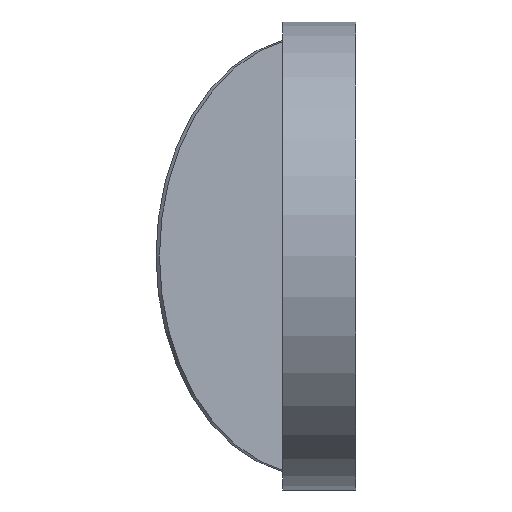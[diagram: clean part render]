
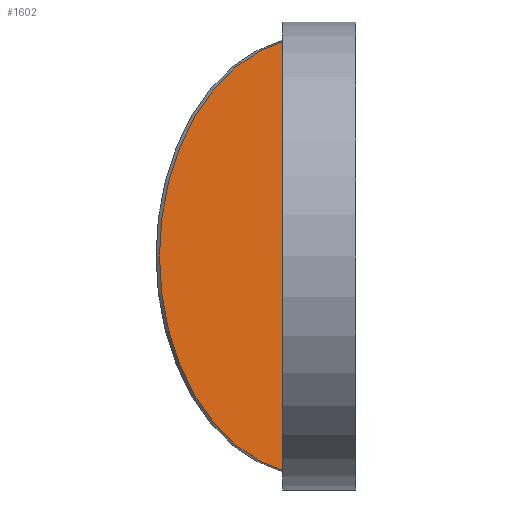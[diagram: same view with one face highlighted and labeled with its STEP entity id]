
A CAD part, left-side view. The second image highlights one B-rep face of the part: STEP entity #1602.
In plain terms, the highlighted planar face has unit normal (-0.707, -0.707, 0).
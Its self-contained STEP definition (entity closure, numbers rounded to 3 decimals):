
#59=ELLIPSE('',#1671,83.439,59.);
#64=ELLIPSE('',#1703,83.439,59.);
#99=CIRCLE('',#1720,60.);
#240=FACE_OUTER_BOUND('',#311,.T.);
#311=EDGE_LOOP('',(#1252,#1253,#1254,#1255,#1256,#1257,#1258,#1259,#1260,
#1261,#1262,#1263,#1264,#1265));
#450=LINE('',#2509,#630);
#451=LINE('',#2512,#631);
#454=LINE('',#2518,#634);
#455=LINE('',#2520,#635);
#456=LINE('',#2522,#636);
#457=LINE('',#2524,#637);
#458=LINE('',#2526,#638);
#459=LINE('',#2528,#639);
#460=LINE('',#2530,#640);
#461=LINE('',#2532,#641);
#462=LINE('',#2533,#642);
#630=VECTOR('',#2034,10.);
#631=VECTOR('',#2037,10.);
#634=VECTOR('',#2042,10.);
#635=VECTOR('',#2043,10.);
#636=VECTOR('',#2044,10.);
#637=VECTOR('',#2045,10.);
#638=VECTOR('',#2046,10.);
#639=VECTOR('',#2047,10.);
#640=VECTOR('',#2048,10.);
#641=VECTOR('',#2049,10.);
#642=VECTOR('',#2050,10.);
#776=VERTEX_POINT('',#2375);
#777=VERTEX_POINT('',#2377);
#799=VERTEX_POINT('',#2451);
#800=VERTEX_POINT('',#2456);
#817=VERTEX_POINT('',#2507);
#818=VERTEX_POINT('',#2511);
#820=VERTEX_POINT('',#2517);
#821=VERTEX_POINT('',#2519);
#822=VERTEX_POINT('',#2521);
#823=VERTEX_POINT('',#2523);
#824=VERTEX_POINT('',#2525);
#825=VERTEX_POINT('',#2527);
#826=VERTEX_POINT('',#2529);
#827=VERTEX_POINT('',#2531);
#934=EDGE_CURVE('',#776,#777,#59,.T.);
#969=EDGE_CURVE('',#799,#800,#64,.T.);
#993=EDGE_CURVE('',#777,#799,#99,.T.);
#996=EDGE_CURVE('',#817,#776,#450,.T.);
#997=EDGE_CURVE('',#800,#818,#451,.T.);
#1000=EDGE_CURVE('',#820,#817,#454,.T.);
#1001=EDGE_CURVE('',#821,#820,#455,.T.);
#1002=EDGE_CURVE('',#822,#821,#456,.T.);
#1003=EDGE_CURVE('',#823,#822,#457,.T.);
#1004=EDGE_CURVE('',#824,#823,#458,.T.);
#1005=EDGE_CURVE('',#825,#824,#459,.T.);
#1006=EDGE_CURVE('',#826,#825,#460,.T.);
#1007=EDGE_CURVE('',#827,#826,#461,.T.);
#1008=EDGE_CURVE('',#818,#827,#462,.T.);
#1252=ORIENTED_EDGE('',*,*,#969,.F.);
#1253=ORIENTED_EDGE('',*,*,#993,.F.);
#1254=ORIENTED_EDGE('',*,*,#934,.F.);
#1255=ORIENTED_EDGE('',*,*,#996,.F.);
#1256=ORIENTED_EDGE('',*,*,#1000,.F.);
#1257=ORIENTED_EDGE('',*,*,#1001,.F.);
#1258=ORIENTED_EDGE('',*,*,#1002,.F.);
#1259=ORIENTED_EDGE('',*,*,#1003,.F.);
#1260=ORIENTED_EDGE('',*,*,#1004,.F.);
#1261=ORIENTED_EDGE('',*,*,#1005,.F.);
#1262=ORIENTED_EDGE('',*,*,#1006,.F.);
#1263=ORIENTED_EDGE('',*,*,#1007,.F.);
#1264=ORIENTED_EDGE('',*,*,#1008,.F.);
#1265=ORIENTED_EDGE('',*,*,#997,.F.);
#1534=PLANE('',#1723);
#1602=ADVANCED_FACE('',(#240),#1534,.T.);
#1671=AXIS2_PLACEMENT_3D('',#2378,#1908,#1909);
#1703=AXIS2_PLACEMENT_3D('',#2457,#1980,#1981);
#1720=AXIS2_PLACEMENT_3D('',#2503,#2028,#2029);
#1723=AXIS2_PLACEMENT_3D('',#2516,#2040,#2041);
#1908=DIRECTION('center_axis',(0.707,0.707,0.));
#1909=DIRECTION('ref_axis',(-0.707,0.707,0.));
#1980=DIRECTION('center_axis',(0.707,0.707,0.));
#1981=DIRECTION('ref_axis',(-0.707,0.707,0.));
#2028=DIRECTION('center_axis',(0.707,0.707,0.));
#2029=DIRECTION('ref_axis',(-0.129,0.129,-0.983));
#2034=DIRECTION('',(0.,0.,-1.));
#2037=DIRECTION('',(0.,0.,-1.));
#2040=DIRECTION('center_axis',(-0.707,-0.707,0.));
#2041=DIRECTION('ref_axis',(0.,0.,1.));
#2042=DIRECTION('',(0.577,-0.577,0.577));
#2043=DIRECTION('',(0.,0.,-1.));
#2044=DIRECTION('',(-0.577,0.577,-0.577));
#2045=DIRECTION('',(0.707,-0.707,0.));
#2046=DIRECTION('',(0.,0.,-1.));
#2047=DIRECTION('',(-0.707,0.707,0.));
#2048=DIRECTION('',(0.577,-0.577,-0.577));
#2049=DIRECTION('',(0.,0.,-1.));
#2050=DIRECTION('',(-0.577,0.577,0.577));
#2375=CARTESIAN_POINT('',(-1.693,9.057,-58.976));
#2377=CARTESIAN_POINT('',(-1.776,9.141,-58.973));
#2378=CARTESIAN_POINT('Origin',(0.,7.364,0.));
#2451=CARTESIAN_POINT('',(-1.776,9.141,58.973));
#2456=CARTESIAN_POINT('',(-1.693,9.057,58.976));
#2457=CARTESIAN_POINT('Origin',(0.,7.364,0.));
#2503=CARTESIAN_POINT('Origin',(6.039,1.325,0.));
#2507=CARTESIAN_POINT('',(-1.693,9.057,-2.753));
#2509=CARTESIAN_POINT('',(-1.693,9.057,58.995));
#2511=CARTESIAN_POINT('',(-1.693,9.057,2.753));
#2512=CARTESIAN_POINT('',(-1.693,9.057,58.995));
#2516=CARTESIAN_POINT('Origin',(-13.176,20.54,0.));
#2517=CARTESIAN_POINT('',(-2.636,10.,-3.696));
#2518=CARTESIAN_POINT('',(-18.62,25.984,-19.681));
#2519=CARTESIAN_POINT('',(-2.636,10.,-1.575));
#2520=CARTESIAN_POINT('',(-2.636,10.,0.));
#2521=CARTESIAN_POINT('',(-1.811,9.175,-0.75));
#2522=CARTESIAN_POINT('',(-5.185,12.549,-4.124));
#2523=CARTESIAN_POINT('',(-2.636,10.,-0.75));
#2524=CARTESIAN_POINT('',(-22.247,29.611,-0.75));
#2525=CARTESIAN_POINT('',(-2.636,10.,0.75));
#2526=CARTESIAN_POINT('',(-2.636,10.,0.));
#2527=CARTESIAN_POINT('',(-1.811,9.175,0.75));
#2528=CARTESIAN_POINT('',(-7.247,14.611,0.75));
#2529=CARTESIAN_POINT('',(-2.636,10.,1.575));
#2530=CARTESIAN_POINT('',(-19.327,26.691,18.266));
#2531=CARTESIAN_POINT('',(-2.636,10.,3.696));
#2532=CARTESIAN_POINT('',(-2.636,10.,0.));
#2533=CARTESIAN_POINT('',(-4.478,11.842,5.538));
